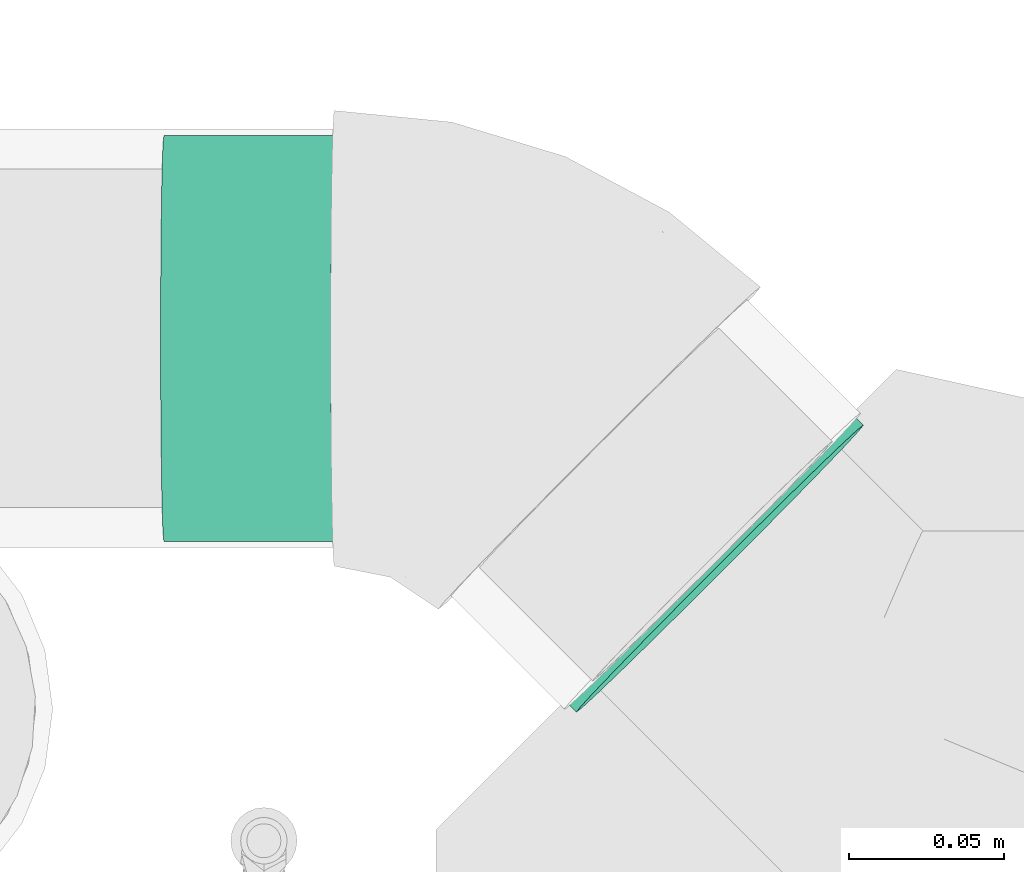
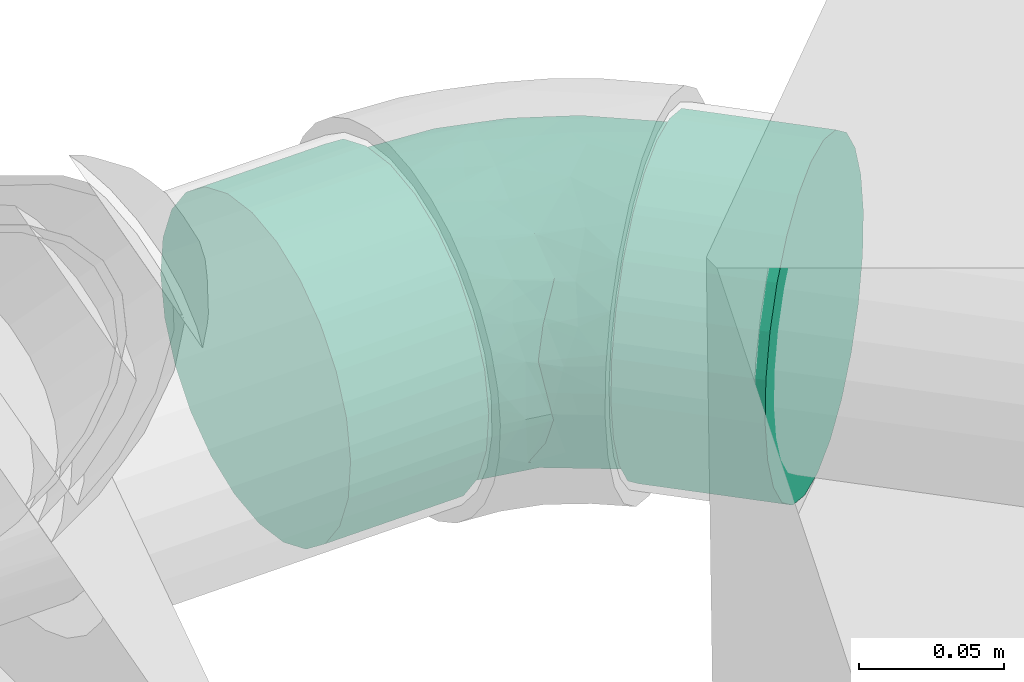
# One storey, part 125 of 156: 1 flow fitting.
"""IFC2X3 building model written with IfcOpenShell, lengths in millimetres."""

from ifc_helpers import new_model, entity, si_unit, converted_unit, derived_unit, direction, frame, origin_with_axes, place, context, subcontext, project, spatial, open_shell, surface_model, source, transform, mapped, type_object, element, save


model = new_model("IFC2X3")

# Units and contexts
model_context = context("Model", 3, precision=0.01, world=frame((0.0, 4.29681676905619e-09, 0.0)), true_north=direction((4.01073788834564e-13, 1.0)))
plan_context = context("Plan", 3, precision=0.01, world=frame((0.0, 4.29681676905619e-09, 0.0)), true_north=direction((4.01073788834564e-13, 1.0)))
body_context = subcontext(model_context, "Body", "Model", "MODEL_VIEW")
ifc_project = project(units=[converted_unit("PLANEANGLEUNIT", "DEGREE", entity("IfcPositiveLengthMeasure", 0.0174532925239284), si_unit("PLANEANGLEUNIT", "RADIAN"), dimensions=[0, 0, 0, 0, 0, 0, 0]), si_unit("AREAUNIT", "SQUARE_METRE"), si_unit("LENGTHUNIT", "METRE", prefix="MILLI"), si_unit("MASSUNIT", "GRAM", prefix="KILO"), si_unit("POWERUNIT", "WATT"), si_unit("PRESSUREUNIT", "PASCAL", prefix="KILO"), si_unit("FORCEUNIT", "NEWTON", prefix="KILO"), si_unit("ELECTRICVOLTAGEUNIT", "VOLT"), si_unit("ELECTRICCURRENTUNIT", "AMPERE"), si_unit("THERMODYNAMICTEMPERATUREUNIT", "DEGREE_CELSIUS"), si_unit("TIMEUNIT", "SECOND"), si_unit("VOLUMEUNIT", "CUBIC_METRE"), derived_unit("LINEARVELOCITYUNIT", [(si_unit("LENGTHUNIT", "METRE"), 1), (si_unit("TIMEUNIT", "SECOND"), -1)]), derived_unit("VOLUMETRICFLOWRATEUNIT", [(si_unit("VOLUMEUNIT", "CUBIC_METRE"), 1), (si_unit("TIMEUNIT", "SECOND"), -1)]), derived_unit("THERMALTRANSMITTANCEUNIT", [(si_unit("POWERUNIT", "WATT"), 1), (si_unit("THERMODYNAMICTEMPERATUREUNIT", "KELVIN"), -1), (si_unit("AREAUNIT", "SQUARE_METRE"), -1)]), derived_unit("SOUNDPRESSUREUNIT", [(si_unit("PRESSUREUNIT", "PASCAL"), 1)])], contexts=[model_context, plan_context])

# Site, building, storey
site_placement = place(None, frame((0.0, -4.29681676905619e-09, 0.0), z_axis=(0.0, 0.0, 1.0), x_axis=(1.0, 0.0, 0.0)))
site = spatial("IfcSite", under=ifc_project, at=site_placement, CompositionType="ELEMENT")
building_placement = place(site_placement, frame((0.0, 4.29681676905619e-09, 0.0), z_axis=(0.0, 0.0, 1.0), x_axis=(1.0, 0.0, 0.0)))
building = spatial("IfcBuilding", under=site, at=building_placement, Name="mc-building", CompositionType="ELEMENT")
storey_placement = place(building_placement, frame((0.0, 0.0, 205200.0), z_axis=(0.0, 0.0, 1.0), x_axis=(1.0, 0.0, 0.0)))
storey = spatial("IfcBuildingStorey", under=building, at=storey_placement, Name="Nivå D + 1,2 m", CompositionType="ELEMENT", Elevation=205200.0)

# Flow fitting
pipe_fitting_type = type_object("IfcPipeFittingType", Name="magi_sewer_bend_001", PredefinedType="BEND")
shared_shape = source(origin_with_axes(), body_context, "Body", "SurfaceModel", [
    surface_model("IfcShellBasedSurfaceModel", [(-105.11169, -16.95265, -63.26814), (-105.11169, -32.75, -56.72466), (-105.11169, -46.3155, -46.3155), (-105.11169, -63.26814, -16.95265), (-105.11169, -56.72466, -32.75), (-105.11169, 56.72466, -32.75), (-105.11169, 46.3155, -46.3155), (-105.11169, -63.26814, 16.95265), (-105.11169, -56.72466, 32.75), (-105.11169, -46.3155, 46.3155), (-105.11169, -16.95265, 63.26814), (-105.11169, 0.0, 65.5), (-105.11169, -32.75, 56.72466), (-105.11169, 63.26814, 16.95265), (-105.11169, 46.3155, 46.3155), (-105.11169, 56.72466, 32.75), (-105.11169, 16.95265, 63.26814), (-105.11169, 32.75, 56.72466), (-50.11169, -16.95265, 63.26814), (-50.11169, 16.95265, 63.26814), (-50.11169, 0.0, 65.5), (-50.11169, -46.3155, 46.3155), (-50.11169, -32.75, 56.72466), (-50.11169, -56.72466, 32.75), (-50.11169, -63.26814, 16.95265), (-50.11169, 46.3155, 46.3155), (-50.11169, 32.75, 56.72466), (-50.11169, 63.26814, 16.95265), (-50.11169, 56.72466, 32.75), (-50.11169, 63.26814, -16.95265), (-50.11169, 65.5, 0.0), (-50.11169, -63.26814, -16.95265), (-50.11169, 32.75, -56.72466), (-50.11169, -65.5, 0.0), (-50.11169, -16.95265, -63.26814), (-50.11169, -56.72466, -32.75), (-50.11169, -46.3155, -46.3155), (-50.11169, -32.75, -56.72466), (-50.11169, 0.0, -65.5), (-50.11169, 46.3155, -46.3155), (-50.11169, 56.72466, -32.75), (-50.11169, 16.95265, -63.26814), (-105.11169, 63.26814, -16.95265), (-105.11169, 16.95265, -63.26814), (-105.11169, 65.5, 0.0), (-105.11169, 32.75, -56.72466), (-105.11169, 0.0, -65.5), (-105.11169, -65.5, 0.0), (28.02357, 120.63746, 0.0), (34.22795, 114.43164, -32.75), (29.60155, 119.05911, -16.95265), (86.31969, 62.32793, 63.26814), (97.48882, 51.15623, 56.72466), (107.07996, 41.56287, 46.3155), (86.31969, 62.32793, -63.26814), (107.07996, 41.56287, -46.3155), (97.48882, 51.15623, -56.72466), (23.45244, 47.41895, -63.26814), (62.34778, 86.30535, -63.26814), (35.43839, 35.43024, -65.5), (-9.2938, 80.17271, -16.95265), (-10.87178, 81.75106, 0.0), (51.17865, 97.47704, -56.72466), (-4.66739, 75.54525, -32.75), (41.58751, 107.07041, -46.3155), (2.69216, 68.18401, -46.3155), (29.60155, 119.05911, 16.95265), (-9.2938, 80.17271, 16.95265), (-4.66739, 75.54525, 32.75), (2.69216, 68.18401, 46.3155), (34.22795, 114.43164, 32.75), (62.34778, 86.30535, 63.26814), (23.45244, 47.41895, 63.26814), (35.43839, 35.43024, 65.5), (41.58751, 107.07041, 46.3155), (51.17865, 97.47704, 56.72466), (75.54417, -4.68477, 32.75), (114.43952, 34.20163, 32.75), (68.18462, 2.67647, 46.3155), (58.59348, 12.26983, 56.72466), (120.6439, 27.99582, 0.0), (119.06592, 29.57416, 16.95265), (80.17058, -9.31224, 16.95265), (81.74855, -10.89058, 0.0), (119.06592, 29.57416, -16.95265), (80.17058, -9.31224, -16.95265), (75.54417, -4.68477, -32.75), (68.18462, 2.67647, -46.3155), (114.43952, 34.20163, -32.75), (58.59348, 12.26983, -56.72466), (-50.11169, 15.65855, -58.43851), (-50.11169, 0.0, -60.5), (-50.11169, 58.43851, -15.65855), (-50.11169, 30.25, -52.39454), (-50.11169, 52.39454, -30.25), (-50.11169, 42.77996, -42.77996), (-50.11169, -60.5, 0.0), (-50.11169, -30.25, -52.39454), (-50.11169, -42.77996, -42.77996), (-50.11169, -15.65855, -58.43851), (-50.11169, -58.43851, -15.65855), (-50.11169, -52.39454, -30.25), (-50.11169, -58.43851, 15.65855), (-50.11169, 58.43851, 15.65855), (-50.11169, 52.39454, 30.25), (-50.11169, 42.77996, 42.77996), (-50.11169, 30.25, 52.39454), (-50.11169, 15.65855, 58.43851), (-50.11169, -52.39454, 30.25), (-50.11169, -42.77996, 42.77996), (-50.11169, -30.25, 52.39454), (-50.11169, -15.65855, 58.43851), (-50.11169, 0.0, 60.5), (-50.11169, 60.5, 0.0), (5.19187, 65.68372, -42.77996), (-1.60588, 72.48303, -30.25), (-5.87912, 76.75726, -15.65855), (46.50938, 24.3567, -58.43851), (35.43839, 35.43024, -60.5), (65.68491, 5.17676, -42.77996), (5.19187, 65.68372, 42.77996), (-5.87912, 76.75726, 15.65855), (-1.60588, 72.48303, 30.25), (14.05087, 56.82268, 52.39454), (76.75591, -5.89678, 15.65855), (65.68491, 5.17676, 42.77996), (72.48266, -1.62256, 30.25), (56.82591, 14.0378, 52.39454), (15.40779, -37.20376, 33.71575), (-13.37979, -34.19359, 46.68447), (-19.52869, -46.27099, 35.42531), (46.52523, -18.91501, 35.42531), (-23.96888, -22.18524, 55.29409), (6.21199, -14.9995, 54.53203), (24.36739, 46.50378, 58.43851), (1.79864, 36.36872, 56.46793), (10.93536, 28.63365, 59.61973), (-18.05072, -5.82526, 59.69855), (-5.7527, 13.89051, 60.28734), (-30.3089, 8.38332, 60.13281), (-17.18178, 41.48723, 49.39213), (-26.67256, 50.73823, 38.17936), (46.50938, 24.3567, 58.43851), (32.63604, 1.25747, 55.29409), (-23.23918, 25.17567, 56.55885), (-20.20595, -56.56342, 0.0), (-12.90841, -55.73812, 10.33155), (23.34312, -39.60182, 23.84486), (-10.84361, -52.34235, 21.01062), (18.78215, -45.35149, 13.15148), (-24.91871, 60.16888, 24.85552), (-24.23052, 64.82487, 12.7115), (44.67584, -29.34918, 21.01062), (35.43839, 35.43024, 60.5), (16.88386, 8.64276, 59.69855), (33.63776, -14.72145, 46.68447), (48.53694, -30.29076, 10.33155), (-26.96256, 65.10396, 0.0), (-7.33665, 78.21512, 0.0), (40.62626, -36.19057, 0.0), (18.74175, -45.25396, 0.0), (-18.05072, -5.82526, -59.69855), (16.88386, 8.64276, -59.69855), (-26.98558, 24.44784, -56.46793), (-27.97808, 12.5178, -59.61973), (-17.01071, 54.73965, -38.17936), (-24.91871, 60.16888, -24.85551), (72.48266, -1.62256, -30.25), (76.75591, -5.89678, -15.65855), (44.67584, -29.34918, -21.01062), (-28.6973, 62.97497, -12.7115), (14.05087, 56.82268, -52.39454), (24.36739, 46.50378, -58.43851), (-1.36537, 34.23462, -56.55885), (-12.90841, -55.73812, -10.33155), (-10.84361, -52.34235, -21.01062), (-17.18178, 41.48723, -49.39213), (-19.52869, -46.27099, -35.42531), (-13.37979, -34.19359, -46.68447), (-23.96888, -22.18524, -55.29409), (32.63604, 1.25747, -55.29409), (6.21199, -14.9995, -54.53203), (15.40779, -37.20376, -33.71575), (15.50688, 27.35775, -60.13281), (11.49151, -44.51011, -23.84485), (18.78215, -45.35149, -13.15148), (46.52523, -18.91501, -35.42531), (33.63777, -14.72145, -46.68447), (-5.7527, 13.89051, -60.28734), (48.53694, -30.29076, -10.33155), (78.21343, -7.35464, 0.0), (10.15362, -24.51703, -48.24729), (-3.14275, -54.31734, 0.0), (47.42434, 23.44152, -63.26814), (12.28331, 58.59064, -56.72466), (47.42434, 23.44152, 63.26814), (54.28118, -25.71486, 0.0), (56.82591, 14.03779, -52.39454), (74.33374, 74.31663, -65.5), (74.33374, 74.31663, 65.5), (12.28331, 58.59064, 56.72466), (10.15363, -24.51702, 48.24728)], [open_shell([[[0, 1, 2]], [[0, 2, 3]], [[3, 2, 4]], [[0, 5, 6]], [[7, 8, 9]], [[10, 11, 9]], [[10, 9, 12]], [[13, 14, 15]], [[14, 16, 17]], [[16, 14, 13]], [[18, 19, 20]], [[21, 18, 22]], [[21, 23, 24]], [[18, 21, 19]], [[24, 19, 21]], [[19, 25, 26]], [[25, 19, 27]], [[25, 27, 28]], [[19, 24, 27]], [[27, 29, 30]], [[27, 24, 29]], [[31, 32, 33]], [[34, 31, 35]], [[36, 37, 34]], [[36, 34, 35]], [[38, 31, 34]], [[33, 39, 40]], [[40, 29, 33]], [[32, 38, 41]], [[32, 39, 33]], [[32, 31, 38]], [[33, 29, 24]], [[29, 42, 30]], [[40, 5, 29]], [[41, 38, 43]], [[39, 6, 40]], [[29, 5, 42]], [[42, 44, 30]], [[45, 32, 43]], [[45, 6, 39]], [[32, 41, 43]], [[6, 5, 40]], [[39, 32, 45]], [[38, 46, 43]], [[0, 34, 37]], [[36, 1, 37]], [[4, 35, 31]], [[36, 35, 2]], [[3, 31, 33]], [[34, 0, 46]], [[37, 1, 0]], [[36, 2, 1]], [[35, 4, 2]], [[3, 4, 31]], [[33, 47, 3]], [[34, 46, 38]], [[24, 7, 33]], [[23, 8, 24]], [[22, 12, 21]], [[21, 9, 23]], [[24, 8, 7]], [[7, 47, 33]], [[11, 10, 18]], [[10, 12, 22]], [[9, 21, 12]], [[9, 8, 23]], [[18, 10, 22]], [[18, 20, 11]], [[16, 19, 26]], [[25, 17, 26]], [[15, 28, 27]], [[25, 28, 14]], [[13, 27, 30]], [[19, 16, 11]], [[26, 17, 16]], [[25, 14, 17]], [[28, 15, 14]], [[13, 15, 27]], [[30, 44, 13]], [[19, 11, 20]], [[48, 49, 50]], [[51, 52, 53]], [[54, 55, 56]], [[57, 58, 59]], [[60, 61, 50]], [[57, 62, 58]], [[49, 63, 50]], [[49, 64, 65]], [[63, 60, 50]], [[65, 63, 49]], [[61, 48, 50]], [[66, 67, 68]], [[69, 70, 68]], [[71, 72, 73]], [[67, 66, 48]], [[68, 70, 66]], [[69, 74, 70]], [[71, 75, 72]], [[67, 48, 61]], [[76, 77, 78]], [[78, 53, 79]], [[80, 81, 82]], [[81, 77, 76]], [[53, 78, 77]], [[53, 52, 79]], [[82, 81, 76]], [[82, 83, 80]], [[84, 85, 86]], [[87, 88, 86]], [[87, 89, 55]], [[85, 84, 80]], [[86, 88, 84]], [[87, 55, 88]], [[89, 56, 55]], [[85, 80, 83]], [[90, 91, 92]], [[93, 90, 92]], [[92, 94, 95]], [[93, 92, 95]], [[96, 92, 91]], [[97, 98, 99]], [[98, 91, 99]], [[100, 96, 101]], [[98, 101, 96]], [[98, 96, 91]], [[96, 102, 92]], [[103, 92, 102]], [[104, 103, 105]], [[106, 103, 102]], [[105, 103, 106]], [[107, 106, 102]], [[108, 109, 102]], [[110, 102, 109]], [[111, 112, 110]], [[102, 110, 112]], [[112, 107, 102]], [[113, 92, 103]], [[114, 115, 116]], [[117, 118, 119]], [[120, 121, 122]], [[123, 121, 120]], [[124, 125, 126]], [[125, 124, 127]], [[128, 129, 130]], [[110, 109, 129]], [[126, 125, 131]], [[132, 129, 133]], [[130, 129, 109]], [[134, 135, 136]], [[111, 110, 132]], [[137, 138, 139]], [[112, 111, 137]], [[105, 140, 141]], [[127, 142, 143]], [[139, 107, 112]], [[106, 144, 140]], [[102, 145, 146]], [[123, 120, 140]], [[147, 148, 149]], [[140, 105, 106]], [[109, 108, 130]], [[104, 141, 150]], [[103, 104, 150]], [[151, 113, 103]], [[152, 147, 149]], [[148, 146, 149]], [[106, 107, 144]], [[153, 136, 154]], [[125, 127, 155]], [[122, 121, 150]], [[154, 142, 153]], [[128, 130, 148]], [[125, 155, 131]], [[138, 136, 135]], [[155, 127, 143]], [[108, 148, 130]], [[156, 124, 152]], [[128, 131, 155]], [[139, 144, 107]], [[128, 147, 131]], [[103, 150, 151]], [[108, 102, 148]], [[157, 151, 158]], [[121, 151, 150]], [[133, 154, 137]], [[122, 150, 141]], [[133, 143, 154]], [[122, 141, 120]], [[138, 137, 154]], [[134, 123, 135]], [[135, 140, 144]], [[132, 137, 111]], [[104, 105, 141]], [[152, 124, 126]], [[152, 126, 131]], [[120, 141, 140]], [[140, 135, 123]], [[138, 135, 144]], [[129, 132, 110]], [[137, 132, 133]], [[154, 143, 142]], [[155, 143, 133]], [[102, 96, 145]], [[102, 146, 148]], [[156, 149, 159]], [[149, 156, 152]], [[154, 136, 138]], [[153, 134, 136]], [[137, 139, 112]], [[144, 139, 138]], [[158, 151, 121]], [[151, 157, 113]], [[131, 147, 152]], [[148, 147, 128]], [[159, 149, 160]], [[99, 91, 161]], [[118, 117, 162]], [[163, 164, 90]], [[94, 165, 95]], [[166, 165, 94]], [[167, 168, 169]], [[92, 170, 166]], [[171, 172, 173]], [[100, 174, 145]], [[93, 163, 90]], [[174, 100, 175]], [[114, 176, 165]], [[175, 101, 177]], [[177, 98, 178]], [[98, 97, 178]], [[100, 101, 175]], [[98, 177, 101]], [[179, 97, 99]], [[180, 162, 117]], [[116, 115, 166]], [[181, 179, 161]], [[113, 157, 170]], [[182, 177, 178]], [[158, 116, 170]], [[181, 161, 162]], [[114, 171, 176]], [[166, 94, 92]], [[115, 165, 166]], [[179, 178, 97]], [[173, 176, 171]], [[164, 161, 91]], [[176, 173, 163]], [[95, 176, 93]], [[183, 172, 118]], [[184, 169, 185]], [[119, 186, 187]], [[181, 180, 187]], [[119, 167, 186]], [[188, 183, 162]], [[186, 182, 187]], [[188, 162, 161]], [[183, 173, 172]], [[188, 164, 163]], [[174, 175, 185]], [[182, 184, 177]], [[167, 169, 186]], [[116, 166, 170]], [[182, 186, 169]], [[115, 114, 165]], [[95, 165, 176]], [[176, 163, 93]], [[188, 163, 173]], [[161, 179, 99]], [[178, 179, 181]], [[162, 180, 181]], [[145, 96, 100]], [[184, 185, 175]], [[189, 185, 169]], [[185, 159, 160]], [[185, 189, 159]], [[168, 189, 169]], [[161, 164, 188]], [[91, 90, 164]], [[162, 183, 118]], [[173, 183, 188]], [[113, 170, 92]], [[170, 157, 158]], [[177, 184, 175]], [[169, 184, 182]], [[0, 3, 5]], [[5, 3, 47]], [[0, 43, 46]], [[0, 45, 43]], [[6, 45, 0]], [[47, 42, 5]], [[47, 7, 42]], [[42, 9, 13]], [[13, 9, 11]], [[44, 42, 13]], [[11, 16, 13]], [[42, 7, 9]], [[66, 70, 74]], [[66, 74, 71]], [[66, 71, 48]], [[71, 74, 75]], [[71, 53, 64]], [[49, 48, 64]], [[71, 64, 48]], [[64, 54, 62]], [[64, 53, 54]], [[54, 53, 81]], [[81, 53, 77]], [[54, 81, 80]], [[54, 88, 55]], [[88, 54, 84]], [[80, 84, 54]], [[71, 51, 53]], [[78, 82, 76]], [[68, 67, 61]], [[63, 61, 60]], [[114, 118, 172]], [[114, 172, 171]], [[114, 116, 118]], [[118, 116, 119]], [[167, 190, 168]], [[190, 167, 119]], [[116, 190, 119]], [[116, 158, 190]], [[123, 158, 121]], [[123, 124, 190]], [[153, 123, 134]], [[127, 153, 142]], [[127, 124, 123]], [[123, 153, 127]], [[123, 190, 158]], [[191, 182, 178]], [[187, 191, 181]], [[182, 191, 187]], [[178, 181, 191]], [[149, 192, 160]], [[192, 185, 160]], [[145, 192, 146]], [[192, 149, 146]], [[192, 174, 185]], [[145, 174, 192]], [[193, 194, 59]], [[193, 195, 72]], [[72, 195, 73]], [[196, 156, 159]], [[180, 117, 197]], [[189, 196, 159]], [[187, 180, 197]], [[62, 198, 58]], [[51, 71, 199]], [[198, 62, 54]], [[195, 83, 82]], [[78, 79, 195]], [[78, 195, 82]], [[83, 195, 85]], [[86, 193, 87]], [[193, 86, 85]], [[87, 193, 89]], [[85, 195, 193]], [[193, 72, 200]], [[200, 65, 193]], [[200, 68, 61]], [[68, 200, 69]], [[65, 194, 193]], [[57, 59, 194]], [[63, 65, 200]], [[63, 200, 61]], [[194, 62, 57]], [[65, 64, 194]], [[58, 198, 59]], [[64, 62, 194]], [[75, 200, 72]], [[69, 200, 74]], [[200, 75, 74]], [[73, 199, 71]], [[195, 51, 73]], [[79, 52, 195]], [[195, 52, 51]], [[51, 199, 73]], [[56, 89, 193]], [[54, 193, 59]], [[54, 56, 193]], [[59, 198, 54]], [[117, 119, 197]], [[124, 156, 196]], [[196, 190, 124]], [[197, 119, 187]], [[168, 196, 189]], [[168, 190, 196]], [[129, 201, 133]], [[201, 128, 155]], [[128, 201, 129]], [[155, 133, 201]]])]),
])
flow_fitting_placement = place(storey_placement, frame((327725.3839, 462724.75736, 4214.39413), z_axis=(-0.0166639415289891, 0.00690193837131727, 0.999837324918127), x_axis=(-0.707008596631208, 0.707008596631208, -0.0166639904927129)))
element("IfcFlowFitting", 1, at=flow_fitting_placement, inside=storey, type_object=pipe_fitting_type, Name="magi_sewer_bend_001", context=body_context, shape_type="MappedRepresentation", body=[
    mapped(shared_shape, transform((0.0, 0.0, 0.0), scale=1.0)),
])

save(model, "model.ifc")
